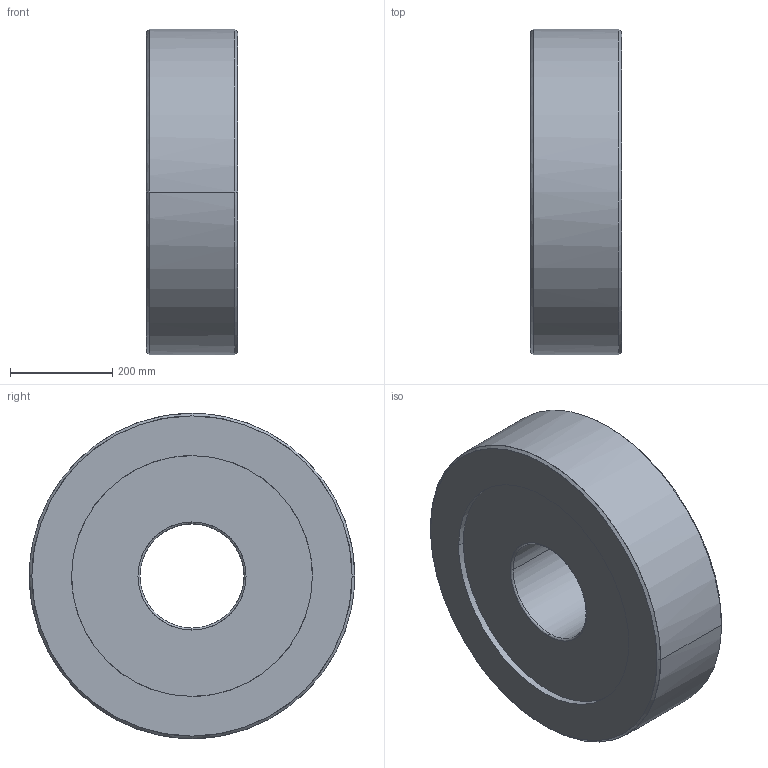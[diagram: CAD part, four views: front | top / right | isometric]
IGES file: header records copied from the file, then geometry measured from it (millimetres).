
Global section: native system: Kubotek KeyCreator; preprocessor: KCM Version 1.1.1442.0; author: KeyCreator User; organization: Self; date: 20170713.065153; units: inch
Bounding box: 177.8 x 635 x 635 mm (x, y, z)
Surface area: 1044274.3 mm2 (no closed solid volume)
Topology: 0 solids, 0 shells, 20 faces, 128 edges, 128 vertices
Faces by surface type: bspline 20
